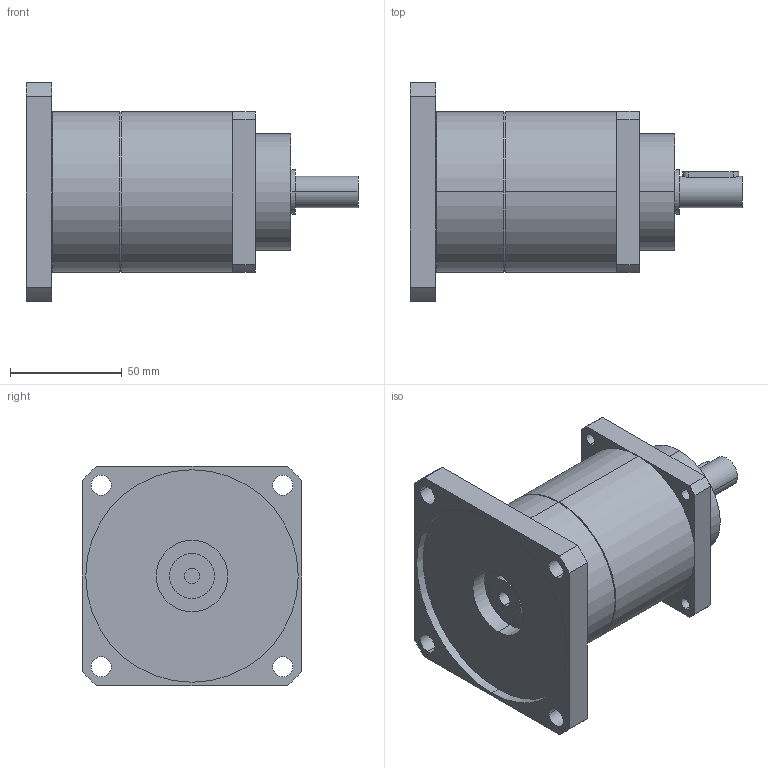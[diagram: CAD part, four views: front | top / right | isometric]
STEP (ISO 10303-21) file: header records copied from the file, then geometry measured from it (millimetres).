
FILE_DESCRIPTION(('CoCreate Modeling STEP Export'),'2;1');
FILE_NAME('GPT75_ig-9-12-16-20-25-28-35-40-50-70-100_14_B5T_7_P08.stp','2014-08-27T13:40:46',(''),(''),'CoCreate Modeling STEP processor for AP214 (Solid Model)','CoCreate Modeling 16.00C 25-Feb-2009 (C) Parametric Technology GmbH','');
FILE_SCHEMA(('AUTOMOTIVE_DESIGN { 1 0 10303 214 1 1 1 1 }'));
Length unit declared in the file: millimetre
Products named in the file (2): GPT75_ig-9-12-16-20-25-28-35-40-50-70-100_14_B5T_7_P08
Assembly tree (1 placements, depth 2):
  GPT75_ig-9-12-16-20-25-28-35-40-50-70-100_14_B5T_7_P08
    GPT75_ig-9-12-16-20-25-28-35-40-50-70-100_14_B5T_7_P08
Bounding box: 148.5 x 98 x 98 mm (x, y, z)
Volume: 491461.7 mm3; surface area: 55463.8 mm2
Topology: 1 solids, 1 shells, 77 faces, 189 edges, 124 vertices
Faces by surface type: cylinder 46, plane 27, cone 4
Entity records: 2459 total; most frequent: CARTESIAN_POINT 714, ORIENTED_EDGE 378, DIRECTION 320, EDGE_CURVE 189, VERTEX_POINT 124, AXIS2_PLACEMENT_3D 118, EDGE_LOOP 103, VECTOR 84
